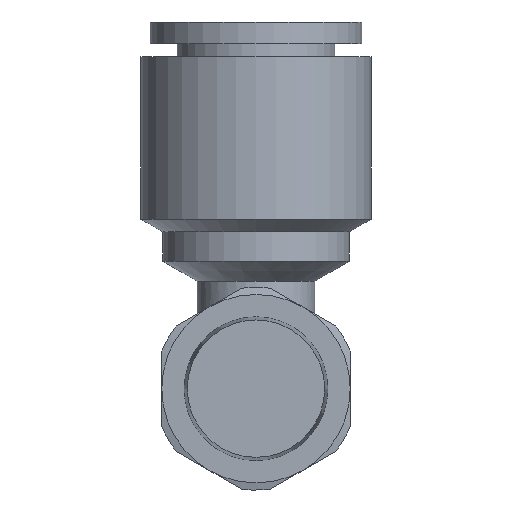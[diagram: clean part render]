
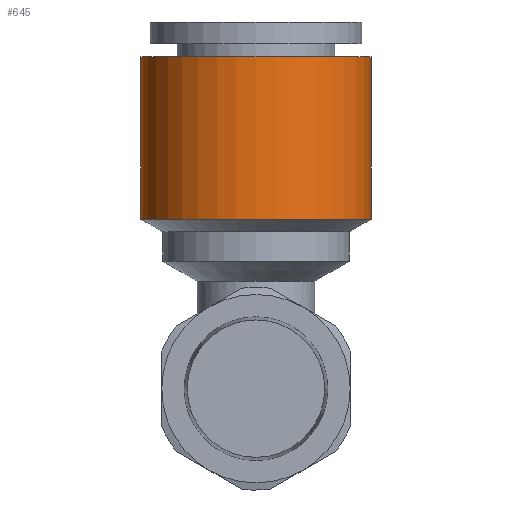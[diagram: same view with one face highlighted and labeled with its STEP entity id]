
A CAD part, front view. The second image highlights one B-rep face of the part: STEP entity #645.
In plain terms, the highlighted cylindrical face has radius 7.95 mm (diameter 15.9 mm), a full revolution.
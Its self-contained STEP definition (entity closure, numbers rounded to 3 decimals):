
#68=CYLINDRICAL_SURFACE('',#724,7.95);
#146=ORIENTED_EDGE('',*,*,#318,.F.);
#147=ORIENTED_EDGE('',*,*,#317,.T.);
#317=EDGE_CURVE('',#401,#401,#450,.T.);
#318=EDGE_CURVE('',#402,#402,#451,.T.);
#401=VERTEX_POINT('',#1127);
#402=VERTEX_POINT('',#1130);
#450=CIRCLE('',#723,7.95);
#451=CIRCLE('',#725,7.95);
#497=EDGE_LOOP('',(#146));
#498=EDGE_LOOP('',(#147));
#566=FACE_BOUND('',#497,.T.);
#567=FACE_BOUND('',#498,.T.);
#645=ADVANCED_FACE('',(#566,#567),#68,.T.);
#723=AXIS2_PLACEMENT_3D('',#1126,#849,#850);
#724=AXIS2_PLACEMENT_3D('',#1128,#851,#852);
#725=AXIS2_PLACEMENT_3D('',#1129,#853,#854);
#849=DIRECTION('',(0.,0.,-1.));
#850=DIRECTION('',(-1.,0.,0.));
#851=DIRECTION('',(0.,0.,-1.));
#852=DIRECTION('',(-1.,0.,0.));
#853=DIRECTION('',(0.,0.,-1.));
#854=DIRECTION('',(-1.,0.,0.));
#1126=CARTESIAN_POINT('',(0.,16.,22.9));
#1127=CARTESIAN_POINT('',(-7.95,16.,22.9));
#1128=CARTESIAN_POINT('',(0.,16.,0.));
#1129=CARTESIAN_POINT('',(0.,16.,11.7));
#1130=CARTESIAN_POINT('',(-7.95,16.,11.7));
